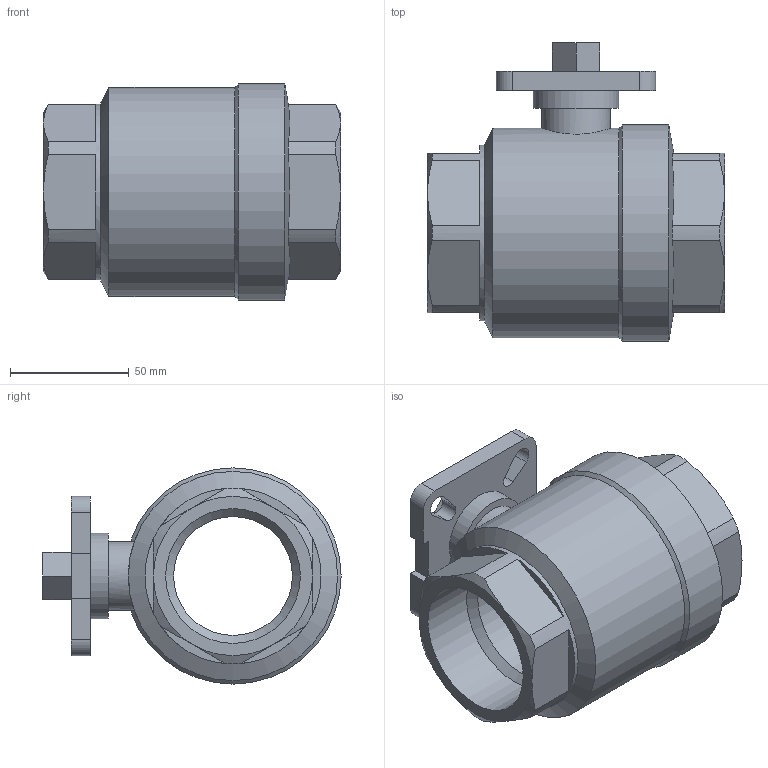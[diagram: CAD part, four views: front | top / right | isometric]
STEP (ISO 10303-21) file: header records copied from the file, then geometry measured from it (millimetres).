
FILE_DESCRIPTION (( 'STEP AP203' ), '1' );
FILE_NAME ('B3.622I0500FVPB0.STEP', '2018-09-28T14:44:08', ( 'dell2' ), ( 'Microsoft' ), 'SwSTEP 2.0', 'SolidWorks 2014', '' );
FILE_SCHEMA (( 'CONFIG_CONTROL_DESIGN' ));
Length unit declared in the file: millimetre
Products named in the file (1): B3.622I0500FVPB0
Bounding box: 125 x 125.5 x 91 mm (x, y, z)
Volume: 436027.1 mm3; surface area: 72078.9 mm2
Topology: 1 solids, 1 shells, 91 faces, 234 edges, 149 vertices
Faces by surface type: plane 48, cylinder 26, cone 17
Full cylindrical faces by diameter (mm): 29 x1, 36 x1, 50 x1, 56.7 x2, 74 x1, 88 x1, 91 x1
Entity records: 3014 total; most frequent: CARTESIAN_POINT 766, DIRECTION 446, ORIENTED_EDGE 438, EDGE_CURVE 219, AXIS2_PLACEMENT_3D 166, VERTEX_POINT 147, EDGE_LOOP 118, LINE 114
